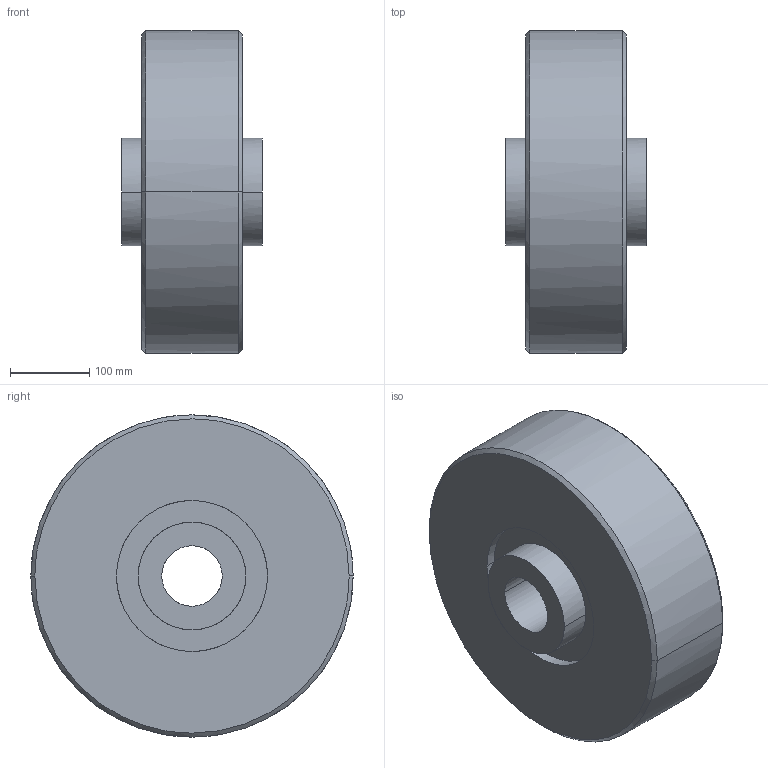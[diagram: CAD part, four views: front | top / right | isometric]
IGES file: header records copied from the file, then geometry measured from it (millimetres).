
Global section: native system: Kubotek KeyCreator; preprocessor: KCM Version 1.1.1442.0; author: KeyCreator User; organization: Self; date: 20170712.060046; units: inch
Bounding box: 177.8 x 406.4 x 406.4 mm (x, y, z)
Surface area: 495252.7 mm2 (no closed solid volume)
Topology: 0 solids, 0 shells, 22 faces, 144 edges, 144 vertices
Faces by surface type: bspline 22
